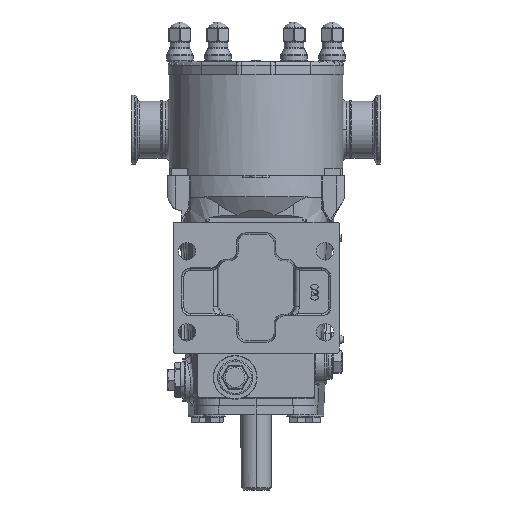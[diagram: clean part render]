
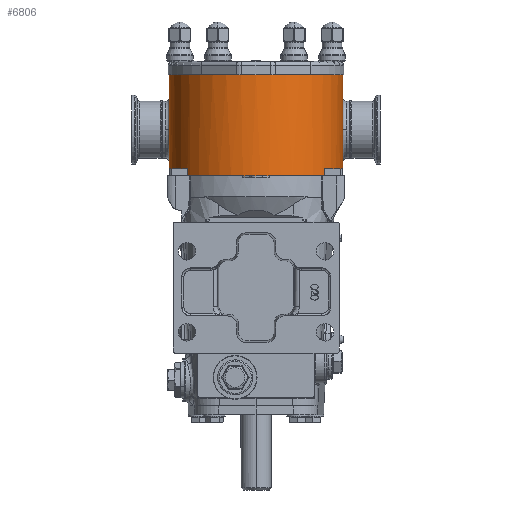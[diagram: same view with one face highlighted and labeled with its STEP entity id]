
A CAD part, front view. The second image highlights one B-rep face of the part: STEP entity #6806.
In plain terms, the highlighted cylindrical face has radius 62.992 mm (diameter 125.984 mm), a partial arc.
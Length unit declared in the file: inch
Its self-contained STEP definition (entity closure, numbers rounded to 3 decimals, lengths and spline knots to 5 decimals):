
#434 = AXIS2_PLACEMENT_3D ( 'NONE', #54383, #21325, #59980 ) ;
#2001 = CARTESIAN_POINT ( 'NONE',  ( -2.48, -2.563, -0.125 ) ) ;
#2012 = VECTOR ( 'NONE', #44921, 39.37008 ) ;
#2349 = DIRECTION ( 'NONE',  ( 0., 0., 1. ) ) ;
#2519 = VECTOR ( 'NONE', #31479, 39.37008 ) ;
#3454 = EDGE_CURVE ( 'NONE', #31073, #63047, #49000, .T. ) ;
#4281 = VECTOR ( 'NONE', #51078, 39.37008 ) ;
#5959 = CARTESIAN_POINT ( 'NONE',  ( 0., -2.563, 2.76 ) ) ;
#6246 = CARTESIAN_POINT ( 'NONE',  ( 0., -2.563, -0.125 ) ) ;
#6806 = ADVANCED_FACE ( 'NONE', ( #9251 ), #36928, .T. ) ;
#7212 = EDGE_CURVE ( 'NONE', #37139, #7808, #45478, .T. ) ;
#7345 = DIRECTION ( 'NONE',  ( 0., 0., 1. ) ) ;
#7808 = VERTEX_POINT ( 'NONE', #39261 ) ;
#8226 = EDGE_CURVE ( 'NONE', #43151, #10080, #24632, .T. ) ;
#8391 = VERTEX_POINT ( 'NONE', #67931 ) ;
#9251 = FACE_OUTER_BOUND ( 'NONE', #70868, .T. ) ;
#9307 = EDGE_CURVE ( 'NONE', #58516, #10080, #22738, .T. ) ;
#9666 = CARTESIAN_POINT ( 'NONE',  ( 0., -2.563, 0.075 ) ) ;
#9931 = EDGE_CURVE ( 'NONE', #61111, #42090, #32214, .T. ) ;
#10080 = VERTEX_POINT ( 'NONE', #35176 ) ;
#11204 = DIRECTION ( 'NONE',  ( 0., 0., 1. ) ) ;
#11372 = CARTESIAN_POINT ( 'NONE',  ( -1.95756, -4.08562, 2.76 ) ) ;
#11501 = DIRECTION ( 'NONE',  ( 1., 0., 0. ) ) ;
#11613 = DIRECTION ( 'NONE',  ( 0., 0., -1. ) ) ;
#11806 = DIRECTION ( 'NONE',  ( 1., 0., 0. ) ) ;
#14442 = ORIENTED_EDGE ( 'NONE', *, *, #9931, .F. ) ;
#14447 = EDGE_CURVE ( 'NONE', #37288, #37139, #48293, .T. ) ;
#14580 = DIRECTION ( 'NONE',  ( 0., 0., 1. ) ) ;
#15077 = CIRCLE ( 'NONE', #52695, 2.48 ) ;
#15230 = DIRECTION ( 'NONE',  ( -1., 0., 0. ) ) ;
#15262 = LINE ( 'NONE', #40465, #57623 ) ;
#16329 = AXIS2_PLACEMENT_3D ( 'NONE', #44301, #11204, #49793 ) ;
#17054 = AXIS2_PLACEMENT_3D ( 'NONE', #35492, #2349, #41038 ) ;
#17204 = LINE ( 'NONE', #56688, #4281 ) ;
#18256 = DIRECTION ( 'NONE',  ( -1., 0., 0. ) ) ;
#18339 = AXIS2_PLACEMENT_3D ( 'NONE', #9666, #48277, #15230 ) ;
#18356 = CARTESIAN_POINT ( 'NONE',  ( -1.95756, -4.08562, -0.125 ) ) ;
#18465 = CARTESIAN_POINT ( 'NONE',  ( 2.45837, -2.88985, 0.075 ) ) ;
#18468 = AXIS2_PLACEMENT_3D ( 'NONE', #6246, #44897, #11806 ) ;
#19868 = CARTESIAN_POINT ( 'NONE',  ( -2.48, -2.563, 2.76 ) ) ;
#21004 = ORIENTED_EDGE ( 'NONE', *, *, #3454, .T. ) ;
#21268 = VECTOR ( 'NONE', #11613, 39.37008 ) ;
#21325 = DIRECTION ( 'NONE',  ( 0., 0., 1. ) ) ;
#22738 = CIRCLE ( 'NONE', #64603, 2.48 ) ;
#22789 = CARTESIAN_POINT ( 'NONE',  ( 0., -2.563, 0.075 ) ) ;
#22948 = CIRCLE ( 'NONE', #63112, 2.48 ) ;
#22981 = LINE ( 'NONE', #11372, #21268 ) ;
#23536 = EDGE_CURVE ( 'NONE', #7808, #45148, #15262, .T. ) ;
#23751 = DIRECTION ( 'NONE',  ( 0., 0., 1. ) ) ;
#24632 = LINE ( 'NONE', #54850, #63514 ) ;
#24868 = CARTESIAN_POINT ( 'NONE',  ( 2.48, -2.563, 2.76 ) ) ;
#25384 = CARTESIAN_POINT ( 'NONE',  ( 1.95069, -4.09441, -0.125 ) ) ;
#26633 = CIRCLE ( 'NONE', #18339, 2.48 ) ;
#26948 = ORIENTED_EDGE ( 'NONE', *, *, #9307, .T. ) ;
#28371 = DIRECTION ( 'NONE',  ( 1., 0., 0. ) ) ;
#28938 = EDGE_CURVE ( 'NONE', #63047, #29005, #40679, .T. ) ;
#29005 = VERTEX_POINT ( 'NONE', #64159 ) ;
#29911 = ORIENTED_EDGE ( 'NONE', *, *, #47753, .T. ) ;
#30013 = VERTEX_POINT ( 'NONE', #36759 ) ;
#31073 = VERTEX_POINT ( 'NONE', #64927 ) ;
#31230 = ORIENTED_EDGE ( 'NONE', *, *, #7212, .T. ) ;
#31371 = CARTESIAN_POINT ( 'NONE',  ( 1.95069, -4.09441, 0.075 ) ) ;
#31479 = DIRECTION ( 'NONE',  ( 0., 0., -1. ) ) ;
#32044 = ORIENTED_EDGE ( 'NONE', *, *, #63336, .T. ) ;
#32214 = CIRCLE ( 'NONE', #38290, 2.48 ) ;
#32706 = EDGE_CURVE ( 'NONE', #37288, #43151, #22948, .T. ) ;
#33013 = CARTESIAN_POINT ( 'NONE',  ( 0., -2.563, -0.125 ) ) ;
#34264 = DIRECTION ( 'NONE',  ( 0., 0., -1. ) ) ;
#34698 = EDGE_CURVE ( 'NONE', #61758, #42090, #46122, .T. ) ;
#35176 = CARTESIAN_POINT ( 'NONE',  ( 2.48, -2.563, -0.125 ) ) ;
#35465 = ORIENTED_EDGE ( 'NONE', *, *, #14447, .T. ) ;
#35492 = CARTESIAN_POINT ( 'NONE',  ( 0., -2.563, -0.125 ) ) ;
#36759 = CARTESIAN_POINT ( 'NONE',  ( -1.875, -4.1862, -0.125 ) ) ;
#36928 = CYLINDRICAL_SURFACE ( 'NONE', #52415, 2.48 ) ;
#37139 = VERTEX_POINT ( 'NONE', #2001 ) ;
#37288 = VERTEX_POINT ( 'NONE', #19868 ) ;
#38290 = AXIS2_PLACEMENT_3D ( 'NONE', #22789, #61471, #28371 ) ;
#38562 = DIRECTION ( 'NONE',  ( 1., 0., 0. ) ) ;
#39261 = CARTESIAN_POINT ( 'NONE',  ( -2.45837, -2.88985, -0.125 ) ) ;
#40465 = CARTESIAN_POINT ( 'NONE',  ( -2.45837, -2.88985, 2.76 ) ) ;
#40679 = CIRCLE ( 'NONE', #17054, 2.48 ) ;
#40974 = CIRCLE ( 'NONE', #434, 2.48 ) ;
#41038 = DIRECTION ( 'NONE',  ( 1., 0., 0. ) ) ;
#42090 = VERTEX_POINT ( 'NONE', #31371 ) ;
#43151 = VERTEX_POINT ( 'NONE', #24868 ) ;
#43507 = ORIENTED_EDGE ( 'NONE', *, *, #28938, .T. ) ;
#44301 = CARTESIAN_POINT ( 'NONE',  ( 0., -2.563, -0.125 ) ) ;
#44605 = DIRECTION ( 'NONE',  ( 0., 0., 1. ) ) ;
#44897 = DIRECTION ( 'NONE',  ( 0., 0., 1. ) ) ;
#44921 = DIRECTION ( 'NONE',  ( 0., 0., 1. ) ) ;
#45148 = VERTEX_POINT ( 'NONE', #66865 ) ;
#45478 = CIRCLE ( 'NONE', #16329, 2.48 ) ;
#46122 = LINE ( 'NONE', #56260, #2012 ) ;
#47635 = CARTESIAN_POINT ( 'NONE',  ( 0., -2.563, -0.125 ) ) ;
#47713 = ORIENTED_EDGE ( 'NONE', *, *, #63837, .T. ) ;
#47753 = EDGE_CURVE ( 'NONE', #30013, #31073, #70382, .T. ) ;
#48277 = DIRECTION ( 'NONE',  ( 0., 0., -1. ) ) ;
#48293 = LINE ( 'NONE', #70168, #2519 ) ;
#49000 = CIRCLE ( 'NONE', #18468, 2.48 ) ;
#49201 = ORIENTED_EDGE ( 'NONE', *, *, #32706, .F. ) ;
#49793 = DIRECTION ( 'NONE',  ( 1., 0., 0. ) ) ;
#50095 = ORIENTED_EDGE ( 'NONE', *, *, #60677, .F. ) ;
#51078 = DIRECTION ( 'NONE',  ( 0., 0., -1. ) ) ;
#51841 = AXIS2_PLACEMENT_3D ( 'NONE', #47635, #14580, #53185 ) ;
#52415 = AXIS2_PLACEMENT_3D ( 'NONE', #56917, #34264, #18256 ) ;
#52695 = AXIS2_PLACEMENT_3D ( 'NONE', #33013, #71718, #38562 ) ;
#53185 = DIRECTION ( 'NONE',  ( 1., 0., 0. ) ) ;
#54383 = CARTESIAN_POINT ( 'NONE',  ( 0., -2.563, -0.125 ) ) ;
#54850 = CARTESIAN_POINT ( 'NONE',  ( 2.48, -2.563, 2.76 ) ) ;
#55530 = ORIENTED_EDGE ( 'NONE', *, *, #57235, .T. ) ;
#56260 = CARTESIAN_POINT ( 'NONE',  ( 1.95069, -4.09441, 2.76 ) ) ;
#56688 = CARTESIAN_POINT ( 'NONE',  ( 2.45837, -2.88985, 2.76 ) ) ;
#56727 = VERTEX_POINT ( 'NONE', #18356 ) ;
#56844 = CARTESIAN_POINT ( 'NONE',  ( 0., -2.563, -0.125 ) ) ;
#56917 = CARTESIAN_POINT ( 'NONE',  ( 0., -2.563, 2.76 ) ) ;
#57235 = EDGE_CURVE ( 'NONE', #61111, #58516, #17204, .T. ) ;
#57623 = VECTOR ( 'NONE', #7345, 39.37008 ) ;
#58070 = ORIENTED_EDGE ( 'NONE', *, *, #34698, .T. ) ;
#58516 = VERTEX_POINT ( 'NONE', #59170 ) ;
#59170 = CARTESIAN_POINT ( 'NONE',  ( 2.45837, -2.88985, -0.125 ) ) ;
#59839 = ORIENTED_EDGE ( 'NONE', *, *, #8226, .F. ) ;
#59980 = DIRECTION ( 'NONE',  ( 1., 0., 0. ) ) ;
#60446 = DIRECTION ( 'NONE',  ( 0., 0., -1. ) ) ;
#60677 = EDGE_CURVE ( 'NONE', #8391, #45148, #26633, .T. ) ;
#60700 = ORIENTED_EDGE ( 'NONE', *, *, #67147, .T. ) ;
#61111 = VERTEX_POINT ( 'NONE', #18465 ) ;
#61471 = DIRECTION ( 'NONE',  ( 0., 0., -1. ) ) ;
#61758 = VERTEX_POINT ( 'NONE', #25384 ) ;
#62416 = DIRECTION ( 'NONE',  ( 1., 0., 0. ) ) ;
#63047 = VERTEX_POINT ( 'NONE', #68362 ) ;
#63112 = AXIS2_PLACEMENT_3D ( 'NONE', #5959, #44605, #11501 ) ;
#63336 = EDGE_CURVE ( 'NONE', #29005, #61758, #15077, .T. ) ;
#63514 = VECTOR ( 'NONE', #60446, 39.37008 ) ;
#63837 = EDGE_CURVE ( 'NONE', #56727, #30013, #40974, .T. ) ;
#64159 = CARTESIAN_POINT ( 'NONE',  ( 1.875, -4.1862, -0.125 ) ) ;
#64603 = AXIS2_PLACEMENT_3D ( 'NONE', #56844, #23751, #62416 ) ;
#64927 = CARTESIAN_POINT ( 'NONE',  ( -0.375, -5.01448, -0.125 ) ) ;
#65349 = ORIENTED_EDGE ( 'NONE', *, *, #23536, .T. ) ;
#66865 = CARTESIAN_POINT ( 'NONE',  ( -2.45837, -2.88985, 0.075 ) ) ;
#67147 = EDGE_CURVE ( 'NONE', #8391, #56727, #22981, .T. ) ;
#67931 = CARTESIAN_POINT ( 'NONE',  ( -1.95756, -4.08562, 0.075 ) ) ;
#68362 = CARTESIAN_POINT ( 'NONE',  ( 0.375, -5.01448, -0.125 ) ) ;
#70168 = CARTESIAN_POINT ( 'NONE',  ( -2.48, -2.563, 2.76 ) ) ;
#70382 = CIRCLE ( 'NONE', #51841, 2.48 ) ;
#70868 = EDGE_LOOP ( 'NONE', ( #50095, #60700, #47713, #29911, #21004, #43507, #32044, #58070, #14442, #55530, #26948, #59839, #49201, #35465, #31230, #65349 ) ) ;
#71718 = DIRECTION ( 'NONE',  ( 0., 0., 1. ) ) ;
